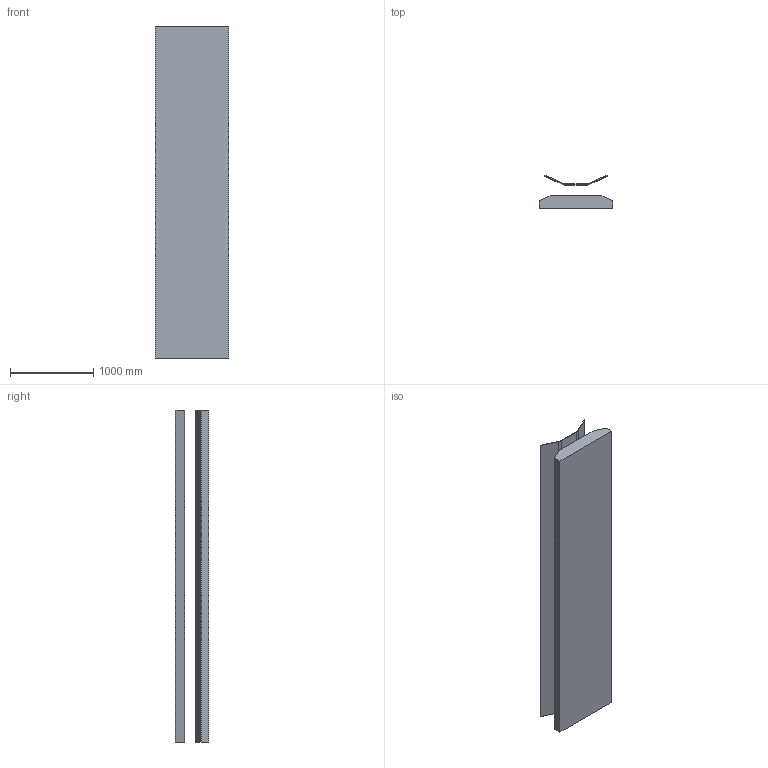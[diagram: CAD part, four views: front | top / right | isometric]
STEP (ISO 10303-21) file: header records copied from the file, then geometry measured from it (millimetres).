
FILE_DESCRIPTION (( 'STEP AP203' ), '1' );
FILE_NAME ('29330.step', '2019-03-14T14:30:22', ( 'PC' ), ( 'Hewlett-Packard Company' ), 'SwSTEP 2.0', 'SolidWorks 2016', '' );
FILE_SCHEMA (( 'CONFIG_CONTROL_DESIGN' ));
Length unit declared in the file: millimetre
Products named in the file (1): 29330
Bounding box: 880 x 400.1 x 4000 mm (x, y, z)
Volume: 549488210.3 mm3; surface area: 14602994.6 mm2
Topology: 2 solids, 2 shells, 22 faces, 54 edges, 36 vertices
Faces by surface type: plane 18, cylinder 4
Entity records: 721 total; most frequent: CARTESIAN_POINT 113, DIRECTION 108, ORIENTED_EDGE 108, EDGE_CURVE 54, LINE 46, VECTOR 46, VERTEX_POINT 36, AXIS2_PLACEMENT_3D 31
